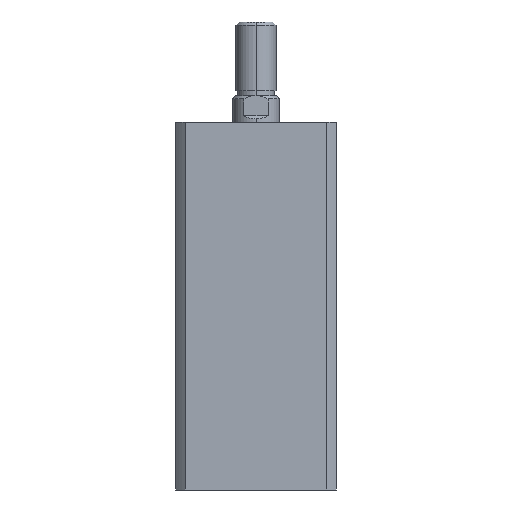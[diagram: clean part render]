
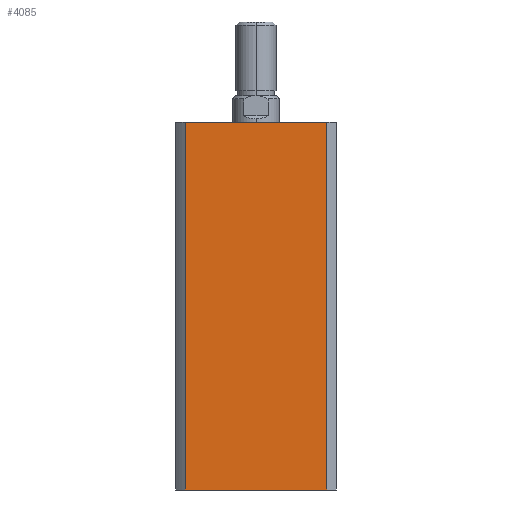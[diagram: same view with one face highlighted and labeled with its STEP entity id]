
A CAD part, left-side view. The second image highlights one B-rep face of the part: STEP entity #4085.
In plain terms, the highlighted planar face has unit normal (-1, 0, 0).
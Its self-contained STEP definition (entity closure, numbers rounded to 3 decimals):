
#80 = VERTEX_POINT ( 'NONE', #3075 ) ;
#221 = CARTESIAN_POINT ( 'NONE',  ( -24., 21.166, 110. ) ) ;
#773 = EDGE_CURVE ( 'NONE', #3155, #80, #921, .T. ) ;
#921 = LINE ( 'NONE', #1481, #928 ) ;
#928 = VECTOR ( 'NONE', #1485, 1000. ) ;
#1043 = LINE ( 'NONE', #2023, #1048 ) ;
#1044 = LINE ( 'NONE', #2011, #1046 ) ;
#1045 = LINE ( 'NONE', #2022, #1050 ) ;
#1046 = VECTOR ( 'NONE', #2018, 1000. ) ;
#1048 = VECTOR ( 'NONE', #2028, 1000. ) ;
#1050 = VECTOR ( 'NONE', #2030, 1000. ) ;
#1338 = FACE_OUTER_BOUND ( 'NONE', #2917, .T. ) ;
#1481 = CARTESIAN_POINT ( 'NONE',  ( -24., 0., 110. ) ) ;
#1485 = DIRECTION ( 'NONE',  ( 0., -1., 0. ) ) ;
#1739 = ORIENTED_EDGE ( 'NONE', *, *, #773, .F. ) ;
#1740 = ORIENTED_EDGE ( 'NONE', *, *, #1894, .T. ) ;
#1892 = EDGE_CURVE ( 'NONE', #4626, #4624, #1044, .T. ) ;
#1893 = EDGE_CURVE ( 'NONE', #80, #4624, #1043, .T. ) ;
#1894 = EDGE_CURVE ( 'NONE', #3155, #4626, #1045, .T. ) ;
#2011 = CARTESIAN_POINT ( 'NONE',  ( -24., 0., 0. ) ) ;
#2018 = DIRECTION ( 'NONE',  ( 0., -1., 0. ) ) ;
#2022 = CARTESIAN_POINT ( 'NONE',  ( -24., 21.166, 110. ) ) ;
#2023 = CARTESIAN_POINT ( 'NONE',  ( -24., -21.166, 110. ) ) ;
#2028 = DIRECTION ( 'NONE',  ( 0., 0., -1. ) ) ;
#2030 = DIRECTION ( 'NONE',  ( 0., 0., -1. ) ) ;
#2473 = ORIENTED_EDGE ( 'NONE', *, *, #1892, .T. ) ;
#2474 = ORIENTED_EDGE ( 'NONE', *, *, #1893, .F. ) ;
#2917 = EDGE_LOOP ( 'NONE', ( #2473, #2474, #1739, #1740 ) ) ;
#3075 = CARTESIAN_POINT ( 'NONE',  ( -24., -21.166, 110. ) ) ;
#3155 = VERTEX_POINT ( 'NONE', #221 ) ;
#3863 = CARTESIAN_POINT ( 'NONE',  ( -24., -21.166, 0. ) ) ;
#3865 = CARTESIAN_POINT ( 'NONE',  ( -24., 21.166, 0. ) ) ;
#4085 = ADVANCED_FACE ( 'NONE', ( #1338 ), #4686, .F. ) ;
#4379 = AXIS2_PLACEMENT_3D ( 'NONE', #4684, #4689, #4690 ) ;
#4624 = VERTEX_POINT ( 'NONE', #3863 ) ;
#4626 = VERTEX_POINT ( 'NONE', #3865 ) ;
#4684 = CARTESIAN_POINT ( 'NONE',  ( -24., 0., 110. ) ) ;
#4686 = PLANE ( 'NONE',  #4379 ) ;
#4689 = DIRECTION ( 'NONE',  ( 1., 0., 0. ) ) ;
#4690 = DIRECTION ( 'NONE',  ( 0., 0., -1. ) ) ;
